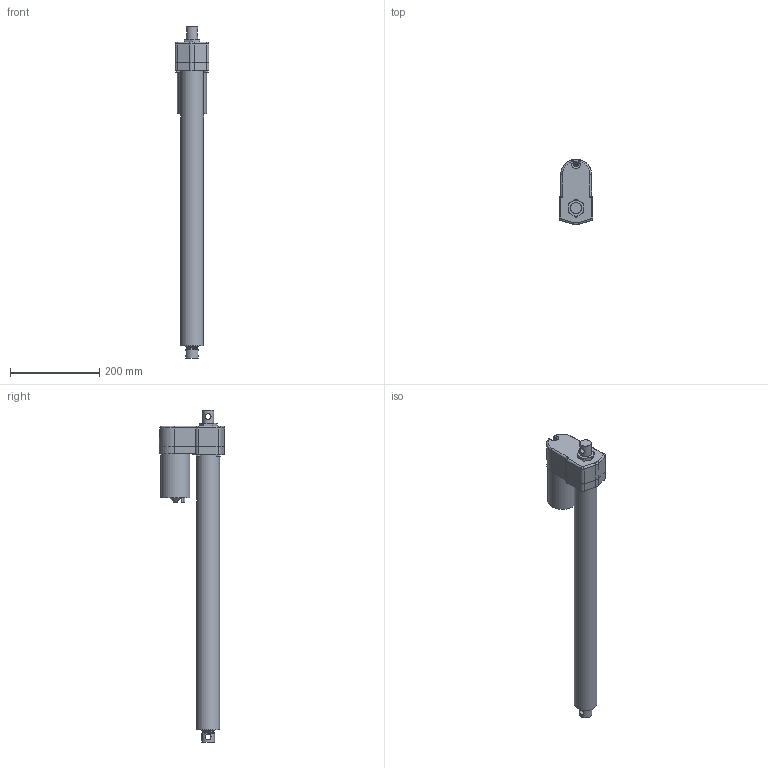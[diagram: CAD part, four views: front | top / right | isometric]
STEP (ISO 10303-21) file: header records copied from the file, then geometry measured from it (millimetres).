
FILE_DESCRIPTION (( 'STEP AP214' ), '1' );
FILE_NAME ('D12-05A5-20M0N-tollo.step', '2020-04-13T14:32:24', ( '' ), ( '' ), 'SwSTEP 2.0', 'SolidWorks 2010', '' );
FILE_SCHEMA (( 'AUTOMOTIVE_DESIGN' ));
Length unit declared in the file: millimetre
Products named in the file (7): Electrak-LA10-Motor-D12-05A5-20M0N-tollo_Electrak-LA10-Motor-D12-05A5-20M0N-tollo; Electrak-LA10-Rear-D12-05A5-20M0N-tollo_Electrak-LA10-Rear-D12-05A5-20M0N-tollo; Electrak-LA10-Tube-D12-05A5-20M0N-tollo_Electrak-LA10-Tube-D12-05A5-20M0N-tollo; Electrak-LA10-Rod-D12-05A5-20M0N-tollo_Electrak-LA10-Rod-D12-05A5-20M0N-tollo; Screw-MFX-H-M5-D12-05A5-20M0N-tollo_Screw-MFX-H-M5-D12-05A5-20M0N-tollo; Screw-M6S-M5-D12-05A5-20M0N-tollo_Screw-M6S-M5-D12-05A5-20M0N-tollo; D12-05A5-20M0N-tollo
Assembly tree (9 placements, depth 2):
  D12-05A5-20M0N-tollo
    Screw-MFX-H-M5-D12-05A5-20M0N-tollo_Screw-MFX-H-M5-D12-05A5-20M0N-tollo
    Screw-M6S-M5-D12-05A5-20M0N-tollo_Screw-M6S-M5-D12-05A5-20M0N-tollo  x4
    Electrak-LA10-Rod-D12-05A5-20M0N-tollo_Electrak-LA10-Rod-D12-05A5-20M0N-tollo
    Electrak-LA10-Rear-D12-05A5-20M0N-tollo_Electrak-LA10-Rear-D12-05A5-20M0N-tollo
    Electrak-LA10-Motor-D12-05A5-20M0N-tollo_Electrak-LA10-Motor-D12-05A5-20M0N-tollo
    Electrak-LA10-Tube-D12-05A5-20M0N-tollo_Electrak-LA10-Tube-D12-05A5-20M0N-tollo
Bounding box: 76.2 x 147.19 x 745.6 mm (x, y, z)
Volume: 2188401.5 mm3; surface area: 304358.5 mm2
Topology: 9 solids, 9 shells, 221 faces, 506 edges, 322 vertices
Faces by surface type: plane 91, cylinder 84, cone 30, torus 14, bspline 2
Full cylindrical faces by diameter (mm): 4 x2, 4.126 x5, 4.8 x10, 5 x5, 7.878 x4, 9.3 x1, 12.8 x2, 25.4 x1, 28.6 x4, 51 x1, 65.3 x1
Entity records: 5123 total; most frequent: CARTESIAN_POINT 1484, DIRECTION 724, ORIENTED_EDGE 594, AXIS2_PLACEMENT_3D 305, EDGE_CURVE 297, EDGE_LOOP 224, VERTEX_POINT 213, FACE_OUTER_BOUND 179
